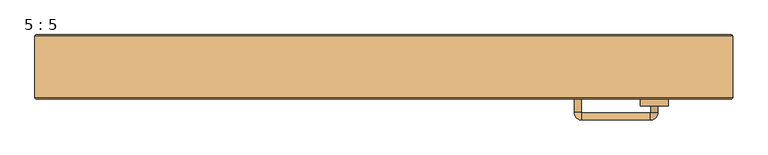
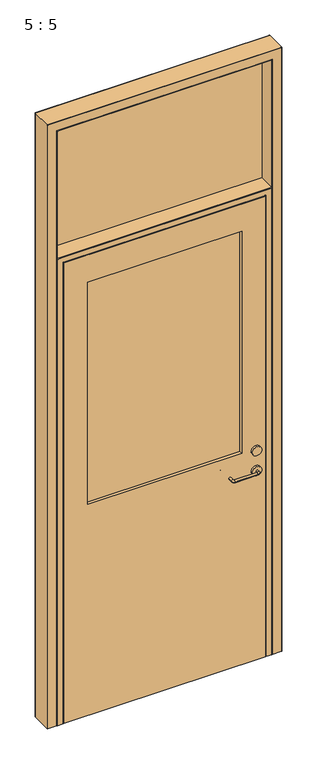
"""IFC4 building model written with IfcOpenShell, lengths in millimetres: door geometry, 5 : 5."""

from ifc_helpers import new_model, si_unit, point, frame, frame_2d, origin, place, context, project, spatial, polyline, circle_curve, ellipse_curve, trimmed, segment, composite_curve, outline, extrude, source, transform, mapped, element, save
from ifc_brep_helpers import plane_surface, cylinder_surface, revolved_surface, advanced_brep


def door_5_5_48de552c(model_context):
    return source(origin(), model_context, "Body", "SolidModel", [
        advanced_brep(
        [(392.9183216, 0.0, 855.0000042), (382.9183216, 0.0, 855.0000042), (382.9183216, -19.0, 855.0000042), (392.9183216, -19.0, 855.0000042), (381.9183216, -30.0, 855.0000042), (381.9183216, -20.0, 855.0000042), (283.9853306, -20.0, 855.0000042), (283.9853306, -30.0, 855.0000042), (272.9853306, -19.0, 855.0000042), (282.9853306, -19.0, 855.0000042), (282.9853306, 0.0, 855.0000042), (272.9853306, 0.0, 855.0000042), (282.9853306, 59.0, 855.0000042), (272.9853306, 59.0, 855.0000042), (283.9853306, 70.0, 855.0000042), (283.9853306, 60.0, 855.0000042), (381.9183216, 60.0, 855.0000042), (381.9183216, 70.0, 855.0000042), (392.9183216, 59.0, 855.0000042), (382.9183216, 59.0, 855.0000042)],
        [
            (0, 1, circle_curve(frame((387.9183216, 0.0, 855.0000042), z_axis=(0.0, -1.0, 0.0), x_axis=(1.0, 0.0, 0.0)), 5.0)),
            (1, 2),
            (2, 3, circle_curve(frame((387.9183216, -19.0, 855.0000042), z_axis=(0.0, 1.0, 0.0), x_axis=(1.0, 0.0, 0.0)), 5.0)),
            (3, 0),
            (1, 0, circle_curve(frame((387.9183216, 0.0, 855.0000042), z_axis=(0.0, -1.0, 0.0), x_axis=(1.0, 0.0, 0.0)), 5.0)),
            (3, 2, circle_curve(frame((387.9183216, -19.0, 855.0000042), z_axis=(0.0, 1.0, 0.0), x_axis=(1.0, 0.0, 0.0)), 5.0)),
            (4, 3, circle_curve(frame((381.9183216, -19.0, 855.0000042), z_axis=(0.0, 0.0, 1.0), x_axis=(1.0, 0.0, 0.0)), 11.0)),
            (2, 5, circle_curve(frame((381.9183216, -19.0, 855.0000042), z_axis=(0.0, 0.0, -1.0), x_axis=(1.0, 0.0, 0.0)), 1.0)),
            (5, 4, circle_curve(frame((381.9183216, -25.0, 855.0000042), z_axis=(1.0, 0.0, 0.0), x_axis=(0.0, -1.0, 0.0)), 5.0)),
            (4, 5, circle_curve(frame((381.9183216, -25.0, 855.0000042), z_axis=(1.0, 0.0, 0.0), x_axis=(0.0, -1.0, 0.0)), 5.0)),
            (5, 6),
            (6, 7, circle_curve(frame((283.9853306, -25.0, 855.0000042), z_axis=(1.0, 0.0, 0.0), x_axis=(0.0, -1.0, 0.0)), 5.0)),
            (7, 4),
            (7, 6, circle_curve(frame((283.9853306, -25.0, 855.0000042), z_axis=(1.0, 0.0, 0.0), x_axis=(0.0, -1.0, 0.0)), 5.0)),
            (8, 7, circle_curve(frame((283.9853306, -19.0, 855.0000042), z_axis=(0.0, 0.0, 1.0), x_axis=(0.0, -1.0, 0.0)), 11.0)),
            (6, 9, circle_curve(frame((283.9853306, -19.0, 855.0000042), z_axis=(0.0, 0.0, -1.0), x_axis=(0.0, -1.0, 0.0)), 1.0)),
            (9, 8, circle_curve(frame((277.9853306, -19.0, 855.0000042), z_axis=(0.0, -1.0, 0.0), x_axis=(-1.0, 0.0, 0.0)), 5.0)),
            (8, 9, circle_curve(frame((277.9853306, -19.0, 855.0000042), z_axis=(0.0, -1.0, 0.0), x_axis=(-1.0, 0.0, 0.0)), 5.0)),
            (9, 10),
            (10, 11, circle_curve(frame((277.9853306, 0.0, 855.0000042), z_axis=(0.0, -1.0, 0.0), x_axis=(-1.0, 0.0, 0.0)), 5.0)),
            (11, 8),
            (11, 10, circle_curve(frame((277.9853306, 0.0, 855.0000042), z_axis=(0.0, -1.0, 0.0), x_axis=(-1.0, 0.0, 0.0)), 5.0)),
            (10, 12),
            (12, 13, circle_curve(frame((277.9853306, 59.0, 855.0000042), z_axis=(0.0, -1.0, 0.0), x_axis=(-1.0, 0.0, 0.0)), 5.0)),
            (13, 11),
            (13, 12, circle_curve(frame((277.9853306, 59.0, 855.0000042), z_axis=(0.0, -1.0, 0.0), x_axis=(-1.0, 0.0, 0.0)), 5.0)),
            (14, 13, circle_curve(frame((283.9853306, 59.0, 855.0000042), z_axis=(0.0, 0.0, 1.0), x_axis=(-1.0, 0.0, 0.0)), 11.0)),
            (12, 15, circle_curve(frame((283.9853306, 59.0, 855.0000042), z_axis=(0.0, 0.0, -1.0), x_axis=(-1.0, 0.0, 0.0)), 1.0)),
            (15, 14, circle_curve(frame((283.9853306, 65.0, 855.0000042), z_axis=(-1.0, 0.0, 0.0), x_axis=(0.0, 1.0, 0.0)), 5.0)),
            (14, 15, circle_curve(frame((283.9853306, 65.0, 855.0000042), z_axis=(-1.0, 0.0, 0.0), x_axis=(0.0, 1.0, 0.0)), 5.0)),
            (15, 16),
            (16, 17, circle_curve(frame((381.9183216, 65.0, 855.0000042), z_axis=(-1.0, 0.0, 0.0), x_axis=(0.0, 1.0, 0.0)), 5.0)),
            (17, 14),
            (17, 16, circle_curve(frame((381.9183216, 65.0, 855.0000042), z_axis=(-1.0, 0.0, 0.0), x_axis=(0.0, 1.0, 0.0)), 5.0)),
            (18, 17, circle_curve(frame((381.9183216, 59.0, 855.0000042), z_axis=(0.0, 0.0, 1.0), x_axis=(0.0, 1.0, 0.0)), 11.0)),
            (16, 19, circle_curve(frame((381.9183216, 59.0, 855.0000042), z_axis=(0.0, 0.0, -1.0), x_axis=(0.0, 1.0, 0.0)), 1.0)),
            (19, 18, circle_curve(frame((387.9183216, 59.0, 855.0000042), z_axis=(0.0, 1.0, 0.0), x_axis=(1.0, 0.0, 0.0)), 5.0)),
            (18, 19, circle_curve(frame((387.9183216, 59.0, 855.0000042), z_axis=(0.0, 1.0, 0.0), x_axis=(1.0, 0.0, 0.0)), 5.0)),
            (19, 1),
            (0, 18),
        ],
        [
            cylinder_surface(frame((387.9183216, 0.0, 855.0000042), z_axis=(0.0, 1.0, 0.0), x_axis=(1.0, 0.0, 0.0)), 5.0),
            revolved_surface(trimmed(ellipse_curve(frame((387.9183216, -19.0, 855.0000042), z_axis=(0.0, 1.0, 0.0), x_axis=(1.0, 0.0, 0.0)), 5.0, 5.0), [point((382.9183216, -19.0, 855.0000042))], [point((392.9183216, -19.0, 855.0000042))], True, "CARTESIAN"), (381.9183216, -19.0, 0.0), (0.0, 0.0, -1.0)),
            revolved_surface(trimmed(ellipse_curve(frame((387.9183216, -19.0, 855.0000042), z_axis=(0.0, 1.0, 0.0), x_axis=(1.0, 0.0, 0.0)), 5.0, 5.0), [point((392.9183216, -19.0, 855.0000042))], [point((382.9183216, -19.0, 855.0000042))], True, "CARTESIAN"), (381.9183216, -19.0, 0.0), (0.0, 0.0, -1.0)),
            cylinder_surface(frame((381.9183216, -25.0, 855.0000042), z_axis=(1.0, 0.0, 0.0), x_axis=(0.0, -1.0, 0.0)), 5.0),
            revolved_surface(trimmed(ellipse_curve(frame((283.9853306, -25.0, 855.0000042), z_axis=(1.0, 0.0, 0.0), x_axis=(0.0, -1.0, 0.0)), 5.0, 5.0), [point((283.9853306, -20.0, 855.0000042))], [point((283.9853306, -30.0, 855.0000042))], True, "CARTESIAN"), (283.9853306, -19.0, 0.0), (0.0, 0.0, -1.0)),
            revolved_surface(trimmed(ellipse_curve(frame((283.9853306, -25.0, 855.0000042), z_axis=(1.0, 0.0, 0.0), x_axis=(0.0, -1.0, 0.0)), 5.0, 5.0), [point((283.9853306, -30.0, 855.0000042))], [point((283.9853306, -20.0, 855.0000042))], True, "CARTESIAN"), (283.9853306, -19.0, 0.0), (0.0, 0.0, -1.0)),
            cylinder_surface(frame((277.9853306, -19.0, 855.0000042), z_axis=(0.0, -1.0, 0.0), x_axis=(-1.0, 0.0, 0.0)), 5.0),
            cylinder_surface(frame((277.9853306, 0.0, 855.0000042), z_axis=(0.0, -1.0, 0.0), x_axis=(-1.0, 0.0, 0.0)), 5.0),
            revolved_surface(trimmed(ellipse_curve(frame((277.9853306, 59.0, 855.0000042), z_axis=(0.0, -1.0, 0.0), x_axis=(-1.0, 0.0, 0.0)), 5.0, 5.0), [point((282.9853306, 59.0, 855.0000042))], [point((272.9853306, 59.0, 855.0000042))], True, "CARTESIAN"), (283.9853306, 59.0, 0.0), (0.0, 0.0, -1.0)),
            revolved_surface(trimmed(ellipse_curve(frame((277.9853306, 59.0, 855.0000042), z_axis=(0.0, -1.0, 0.0), x_axis=(-1.0, 0.0, 0.0)), 5.0, 5.0), [point((272.9853306, 59.0, 855.0000042))], [point((282.9853306, 59.0, 855.0000042))], True, "CARTESIAN"), (283.9853306, 59.0, 0.0), (0.0, 0.0, -1.0)),
            cylinder_surface(frame((283.9853306, 65.0, 855.0000042), z_axis=(-1.0, 0.0, 0.0), x_axis=(0.0, 1.0, 0.0)), 5.0),
            revolved_surface(trimmed(ellipse_curve(frame((381.9183216, 65.0, 855.0000042), z_axis=(-1.0, 0.0, 0.0), x_axis=(0.0, 1.0, 0.0)), 5.0, 5.0), [point((381.9183216, 60.0, 855.0000042))], [point((381.9183216, 70.0, 855.0000042))], True, "CARTESIAN"), (381.9183216, 59.0, 0.0), (0.0, 0.0, -1.0)),
            revolved_surface(trimmed(ellipse_curve(frame((381.9183216, 65.0, 855.0000042), z_axis=(-1.0, 0.0, 0.0), x_axis=(0.0, 1.0, 0.0)), 5.0, 5.0), [point((381.9183216, 70.0, 855.0000042))], [point((381.9183216, 60.0, 855.0000042))], True, "CARTESIAN"), (381.9183216, 59.0, 0.0), (0.0, 0.0, -1.0)),
            cylinder_surface(frame((387.9183216, 59.0, 855.0000042), z_axis=(0.0, 1.0, 0.0), x_axis=(1.0, 0.0, 0.0)), 5.0),
        ],
        [
            (0, [[1, 2, 3, 4]]),
            (0, [[5, -4, 6, -2]]),
            (1, [[7, -3, 8, 9]]),
            (2, [[-8, -6, -7, 10]]),
            (3, [[-9, 11, 12, 13]]),
            (3, [[-10, -13, 14, -11]]),
            (4, [[15, -12, 16, 17]]),
            (5, [[-16, -14, -15, 18]]),
            (6, [[-17, 19, 20, 21]]),
            (6, [[-18, -21, 22, -19]]),
            (7, [[-20, 23, 24, 25]]),
            (7, [[-22, -25, 26, -23]]),
            (8, [[27, -24, 28, 29]]),
            (9, [[-28, -26, -27, 30]]),
            (10, [[-29, 31, 32, 33]]),
            (10, [[-30, -33, 34, -31]]),
            (11, [[35, -32, 36, 37]]),
            (12, [[-36, -34, -35, 38]]),
            (13, [[-37, 39, -1, 40]]),
            (13, [[-38, -40, -5, -39]]),
        ],
    ),
        extrude(outline(polyline([(327.9573841, 14.0), (-328.0426159, 14.0), (-328.0426159, 26.0), (327.9573841, 26.0), (327.9573841, 14.0)])), frame((0.0, 0.0, 950.0), z_axis=(0.0, 0.0, 1.0), x_axis=(1.0, 0.0, 0.0)), (0.0, 0.0, 1.0), 1000.0),
        extrude(outline(polyline([(2072.0, 427.9573841), (2072.0, -428.0), (0.0, -428.0), (0.0, 427.9573841), (2072.0, 427.9573841)]), holes=[polyline([(1950.0, -328.0426159), (1950.0, 327.9573841), (950.0, 327.9573841), (950.0, -328.0426159), (1950.0, -328.0426159)])]), frame((0.0, 0.0, 0.0), z_axis=(0.0, 1.0, 0.0), x_axis=(0.0, 0.0, 1.0)), (0.0, 0.0, 1.0), 40.0),
        extrude(outline(polyline([(-458.0, 85.5), (458.0, 85.5), (458.0, 74.5), (-458.0, 74.5), (-458.0, 85.5)])), frame((0.0, 0.0, 2100.0), z_axis=(0.0, 0.0, 1.0), x_axis=(1.0, 0.0, 0.0)), (0.0, 0.0, 1.0), 574.0),
        advanced_brep(
        [(498.0, 0.0, 0.0), (460.0, 0.0, 0.0), (458.0, 2.0, 0.0), (458.0, 90.0, 0.0), (460.0, 92.0, 0.0), (498.0, 92.0, 0.0), (500.0, 90.0, 0.0), (500.0, 2.0, 0.0), (498.0, 0.0, 2714.0), (-498.0, 0.0, 2714.0), (-498.0, 0.0, 0.0), (-460.0, 0.0, 0.0), (-460.0, 0.0, 2676.0), (460.0, 0.0, 2676.0), (458.0, 2.0, 2674.0), (458.0, 90.0, 2674.0), (460.0, 92.0, 2676.0), (-460.0, 92.0, 2676.0), (-460.0, 92.0, 0.0), (-498.0, 92.0, 0.0), (-498.0, 92.0, 2714.0), (498.0, 92.0, 2714.0), (500.0, 90.0, 2716.0), (500.0, 2.0, 2716.0), (-458.0, 2.0, 2674.0), (-458.0, 90.0, 2674.0), (-500.0, 90.0, 2716.0), (-500.0, 2.0, 2716.0), (-500.0, 2.0, 0.0), (-500.0, 90.0, 0.0), (-458.0, 90.0, 0.0), (-458.0, 2.0, 0.0)],
        [
            (0, 1),
            (1, 2, circle_curve(frame((460.0, 2.0, 0.0), z_axis=(0.0, 0.0, -1.0), x_axis=(1.0, 0.0, 0.0)), 2.0)),
            (2, 3),
            (3, 4, circle_curve(frame((460.0, 90.0, 0.0), z_axis=(0.0, 0.0, -1.0), x_axis=(1.0, 0.0, 0.0)), 2.0)),
            (4, 5),
            (5, 6, circle_curve(frame((498.0, 90.0, 0.0), z_axis=(0.0, 0.0, -1.0), x_axis=(1.0, 0.0, 0.0)), 2.0)),
            (6, 7),
            (7, 0, circle_curve(frame((498.0, 2.0, 0.0), z_axis=(0.0, 0.0, -1.0), x_axis=(1.0, 0.0, 0.0)), 2.0)),
            (0, 8),
            (8, 9),
            (9, 10),
            (10, 11),
            (11, 12),
            (12, 13),
            (13, 1),
            (2, 14),
            (14, 15),
            (15, 3),
            (4, 16),
            (16, 17),
            (17, 18),
            (18, 19),
            (19, 20),
            (20, 21),
            (21, 5),
            (6, 22),
            (22, 23),
            (23, 7),
            (14, 24),
            (24, 25),
            (25, 15),
            (22, 26),
            (26, 27),
            (27, 23),
            (10, 28, circle_curve(frame((-498.0, 2.0, 0.0), z_axis=(0.0, 0.0, -1.0), x_axis=(-1.0, 0.0, 0.0)), 2.0)),
            (28, 29),
            (29, 19, circle_curve(frame((-498.0, 90.0, 0.0), z_axis=(0.0, 0.0, -1.0), x_axis=(-1.0, 0.0, 0.0)), 2.0)),
            (18, 30, circle_curve(frame((-460.0, 90.0, 0.0), z_axis=(0.0, 0.0, -1.0), x_axis=(-1.0, 0.0, 0.0)), 2.0)),
            (30, 31),
            (31, 11, circle_curve(frame((-460.0, 2.0, 0.0), z_axis=(0.0, 0.0, -1.0), x_axis=(-1.0, 0.0, 0.0)), 2.0)),
            (24, 31),
            (30, 25),
            (26, 29),
            (28, 27),
            (13, 14, ellipse_curve(frame((460.0, 2.0, 2676.0), z_axis=(0.7071067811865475, 0.0, -0.7071067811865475), x_axis=(-0.7071067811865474, 0.0, -0.7071067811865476)), 2.8284271, 2.0)),
            (15, 16, ellipse_curve(frame((460.0, 90.0, 2676.0), z_axis=(0.7071067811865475, 0.0, -0.7071067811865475), x_axis=(-0.7071067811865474, 0.0, -0.7071067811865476)), 2.8284271, 2.0)),
            (21, 22, ellipse_curve(frame((498.0, 90.0, 2714.0), z_axis=(0.7071067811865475, 0.0, -0.7071067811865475), x_axis=(-0.7071067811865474, 0.0, -0.7071067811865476)), 2.8284271, 2.0)),
            (23, 8, ellipse_curve(frame((498.0, 2.0, 2714.0), z_axis=(0.7071067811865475, 0.0, -0.7071067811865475), x_axis=(-0.7071067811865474, 0.0, -0.7071067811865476)), 2.8284271, 2.0)),
            (12, 24, ellipse_curve(frame((-460.0, 2.0, 2676.0), z_axis=(0.7071067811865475, 0.0, 0.7071067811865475), x_axis=(0.7071067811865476, 0.0, -0.7071067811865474)), 2.8284271, 2.0)),
            (25, 17, ellipse_curve(frame((-460.0, 90.0, 2676.0), z_axis=(0.7071067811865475, 0.0, 0.7071067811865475), x_axis=(0.7071067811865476, 0.0, -0.7071067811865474)), 2.8284271, 2.0)),
            (20, 26, ellipse_curve(frame((-498.0, 90.0, 2714.0), z_axis=(0.7071067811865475, 0.0, 0.7071067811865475), x_axis=(0.7071067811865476, 0.0, -0.7071067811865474)), 2.8284271, 2.0)),
            (27, 9, ellipse_curve(frame((-498.0, 2.0, 2714.0), z_axis=(0.7071067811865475, 0.0, 0.7071067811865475), x_axis=(0.7071067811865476, 0.0, -0.7071067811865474)), 2.8284271, 2.0)),
        ],
        [
            plane_surface(frame((500.0, 0.0, 0.0), z_axis=(0.0, 0.0, -1.0), x_axis=(0.0, 1.0, 0.0))),
            plane_surface(frame((498.0, 0.0, 0.0), z_axis=(0.0, -1.0, 0.0), x_axis=(0.0, 0.0, 1.0))),
            plane_surface(frame((458.0, 2.0, 0.0), z_axis=(-1.0, 0.0, 0.0), x_axis=(0.0, 0.0, 1.0))),
            plane_surface(frame((460.0, 92.0, 0.0), z_axis=(0.0, 1.0, 0.0), x_axis=(0.0, 0.0, 1.0))),
            plane_surface(frame((500.0, 90.0, 0.0), z_axis=(1.0, 0.0, 0.0), x_axis=(0.0, 0.0, 1.0))),
            plane_surface(frame((458.0, 2.0, 2674.0), z_axis=(0.0, 0.0, -1.0), x_axis=(-1.0, 0.0, 0.0))),
            plane_surface(frame((500.0, 90.0, 2716.0), z_axis=(0.0, 0.0, 1.0), x_axis=(-1.0, 0.0, 0.0))),
            plane_surface(frame((-500.0, 0.0, 0.0), z_axis=(0.0, 0.0, -1.0), x_axis=(0.0, 1.0, 0.0))),
            plane_surface(frame((-458.0, 2.0, 2674.0), z_axis=(1.0, 0.0, 0.0), x_axis=(0.0, 0.0, -1.0))),
            plane_surface(frame((-500.0, 90.0, 2716.0), z_axis=(-1.0, 0.0, 0.0), x_axis=(0.0, 0.0, -1.0))),
            cylinder_surface(frame((460.0, 2.0, 0.0), z_axis=(0.0, 0.0, -1.0), x_axis=(1.0, 0.0, 0.0)), 2.0),
            cylinder_surface(frame((460.0, 90.0, 0.0), z_axis=(0.0, 0.0, -1.0), x_axis=(1.0, 0.0, 0.0)), 2.0),
            cylinder_surface(frame((498.0, 90.0, 0.0), z_axis=(0.0, 0.0, -1.0), x_axis=(1.0, 0.0, 0.0)), 2.0),
            cylinder_surface(frame((498.0, 2.0, 0.0), z_axis=(0.0, 0.0, -1.0), x_axis=(1.0, 0.0, 0.0)), 2.0),
            cylinder_surface(frame((500.0, 2.0, 2676.0), z_axis=(1.0, 0.0, 0.0), x_axis=(0.0, 0.0, 1.0)), 2.0),
            cylinder_surface(frame((500.0, 90.0, 2676.0), z_axis=(1.0, 0.0, 0.0), x_axis=(0.0, 0.0, 1.0)), 2.0),
            cylinder_surface(frame((500.0, 90.0, 2714.0), z_axis=(1.0, 0.0, 0.0), x_axis=(0.0, 0.0, 1.0)), 2.0),
            cylinder_surface(frame((500.0, 2.0, 2714.0), z_axis=(1.0, 0.0, 0.0), x_axis=(0.0, 0.0, 1.0)), 2.0),
            cylinder_surface(frame((-460.0, 2.0, 2716.0), z_axis=(0.0, 0.0, 1.0), x_axis=(-1.0, 0.0, 0.0)), 2.0),
            cylinder_surface(frame((-460.0, 90.0, 2716.0), z_axis=(0.0, 0.0, 1.0), x_axis=(-1.0, 0.0, 0.0)), 2.0),
            cylinder_surface(frame((-498.0, 90.0, 2716.0), z_axis=(0.0, 0.0, 1.0), x_axis=(-1.0, 0.0, 0.0)), 2.0),
            cylinder_surface(frame((-498.0, 2.0, 2716.0), z_axis=(0.0, 0.0, 1.0), x_axis=(-1.0, 0.0, 0.0)), 2.0),
        ],
        [
            (0, [[1, 2, 3, 4, 5, 6, 7, 8]]),
            (1, [[-1, 9, 10, 11, 12, 13, 14, 15]]),
            (2, [[-3, 16, 17, 18]]),
            (3, [[-5, 19, 20, 21, 22, 23, 24, 25]]),
            (4, [[-7, 26, 27, 28]]),
            (5, [[-17, 29, 30, 31]]),
            (6, [[-27, 32, 33, 34]]),
            (7, [[35, 36, 37, -22, 38, 39, 40, -12]]),
            (8, [[-30, 41, -39, 42]]),
            (9, [[-33, 43, -36, 44]]),
            (10, [[-2, -15, 45, -16]]),
            (11, [[-4, -18, 46, -19]]),
            (12, [[-6, -25, 47, -26]]),
            (13, [[-8, -28, 48, -9]]),
            (14, [[-45, -14, 49, -29]]),
            (15, [[-46, -31, 50, -20]]),
            (16, [[-47, -24, 51, -32]]),
            (17, [[-48, -34, 52, -10]]),
            (18, [[-49, -13, -40, -41]]),
            (19, [[-50, -42, -38, -21]]),
            (20, [[-51, -23, -37, -43]]),
            (21, [[-52, -44, -35, -11]]),
        ],
    ),
        advanced_brep(
        [(-456.0, 92.0, 0.0), (-433.0, 92.0, 0.0), (-431.0, 90.0, 0.0), (-431.0, 87.0, 0.0), (-421.0361518, 87.0, 0.0), (-419.0361518, 85.0, 0.0), (-419.0, 45.0, 0.0), (-421.0361518, 43.0, 0.0), (-431.0, 43.0, 0.0), (-431.0, 2.0, 0.0), (-433.0, 0.0, 0.0), (-456.0, 0.0, 0.0), (-458.0, 2.0, 0.0), (-458.0, 90.0, 0.0), (-456.0, 92.0, 2098.0), (456.0, 92.0, 2098.0), (456.0, 92.0, 0.0), (433.0, 92.0, 0.0), (433.0, 92.0, 2075.0), (-433.0, 92.0, 2075.0), (-431.0, 90.0, 2073.0), (-431.0, 87.0, 2073.0), (431.0, 87.0, 2073.0), (431.0, 87.0, 0.0), (421.0361518, 87.0, 0.0), (421.0361518, 87.0, 2063.0361518), (-421.0361518, 87.0, 2063.0361518), (-419.0361518, 85.0, 2061.0361518), (-419.0, 45.0, 2061.0), (-421.0361518, 43.0, 2063.0361518), (421.0361518, 43.0, 2063.0361518), (421.0361518, 43.0, 0.0), (431.0, 43.0, 0.0), (431.0, 43.0, 2073.0), (-431.0, 43.0, 2073.0), (-431.0, 2.0, 2073.0), (-433.0, 0.0, 2075.0), (433.0, 0.0, 2075.0), (433.0, 0.0, 0.0), (456.0, 0.0, 0.0), (456.0, 0.0, 2098.0), (-456.0, 0.0, 2098.0), (-458.0, 2.0, 2100.0), (-458.0, 90.0, 2100.0), (431.0, 90.0, 2073.0), (419.0361518, 85.0, 2061.0361518), (419.0, 45.0, 2061.0), (431.0, 2.0, 2073.0), (458.0, 2.0, 2100.0), (458.0, 90.0, 2100.0), (458.0, 90.0, 0.0), (458.0, 2.0, 0.0), (431.0, 2.0, 0.0), (419.0361518, 45.0, 0.0), (419.0, 85.0, 0.0), (431.0, 90.0, 0.0)],
        [
            (0, 1),
            (1, 2, circle_curve(frame((-433.0, 90.0, 0.0), z_axis=(0.0, 0.0, -1.0), x_axis=(0.0, 1.0, 0.0)), 2.0)),
            (2, 3),
            (3, 4),
            (4, 5, circle_curve(frame((-421.0361518, 85.0, 0.0), z_axis=(0.0, 0.0, -1.0), x_axis=(0.0, 1.0, 0.0)), 2.0)),
            (5, 6),
            (6, 7, circle_curve(frame((-421.0361518, 45.0, 0.0), z_axis=(0.0, 0.0, -1.0), x_axis=(0.0, 1.0, 0.0)), 2.0)),
            (7, 8),
            (8, 9),
            (9, 10, circle_curve(frame((-433.0, 2.0, 0.0), z_axis=(0.0, 0.0, -1.0), x_axis=(0.0, 1.0, 0.0)), 2.0)),
            (10, 11),
            (11, 12, circle_curve(frame((-456.0, 2.0, 0.0), z_axis=(0.0, 0.0, -1.0), x_axis=(0.0, 1.0, 0.0)), 2.0)),
            (12, 13),
            (13, 0, circle_curve(frame((-456.0, 90.0, 0.0), z_axis=(0.0, 0.0, -1.0), x_axis=(0.0, 1.0, 0.0)), 2.0)),
            (0, 14),
            (14, 15),
            (15, 16),
            (16, 17),
            (17, 18),
            (18, 19),
            (19, 1),
            (19, 20, ellipse_curve(frame((-433.0, 90.0, 2075.0), z_axis=(-0.7071067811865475, 0.0, -0.7071067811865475), x_axis=(0.7071067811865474, 0.0, -0.7071067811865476)), 2.8284271, 2.0)),
            (20, 2),
            (20, 21),
            (21, 3),
            (21, 22),
            (22, 23),
            (23, 24),
            (24, 25),
            (25, 26),
            (26, 4),
            (26, 27, ellipse_curve(frame((-421.0361518, 85.0, 2063.0361518), z_axis=(-0.7071067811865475, 0.0, -0.7071067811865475), x_axis=(0.7071067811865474, 0.0, -0.7071067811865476)), 2.8284271, 2.0)),
            (27, 5),
            (27, 28),
            (28, 6),
            (28, 29, ellipse_curve(frame((-421.0361518, 45.0, 2063.0361518), z_axis=(-0.7071067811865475, 0.0, -0.7071067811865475), x_axis=(0.7071067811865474, 0.0, -0.7071067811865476)), 2.8284271, 2.0)),
            (29, 7),
            (29, 30),
            (30, 31),
            (31, 32),
            (32, 33),
            (33, 34),
            (34, 8),
            (34, 35),
            (35, 9),
            (35, 36, ellipse_curve(frame((-433.0, 2.0, 2075.0), z_axis=(-0.7071067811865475, 0.0, -0.7071067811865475), x_axis=(0.7071067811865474, 0.0, -0.7071067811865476)), 2.8284271, 2.0)),
            (36, 10),
            (36, 37),
            (37, 38),
            (38, 39),
            (39, 40),
            (40, 41),
            (41, 11),
            (41, 42, ellipse_curve(frame((-456.0, 2.0, 2098.0), z_axis=(-0.7071067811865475, 0.0, -0.7071067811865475), x_axis=(0.7071067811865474, 0.0, -0.7071067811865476)), 2.8284271, 2.0)),
            (42, 12),
            (42, 43),
            (43, 13),
            (43, 14, ellipse_curve(frame((-456.0, 90.0, 2098.0), z_axis=(-0.7071067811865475, 0.0, -0.7071067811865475), x_axis=(0.7071067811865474, 0.0, -0.7071067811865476)), 2.8284271, 2.0)),
            (18, 44, ellipse_curve(frame((433.0, 90.0, 2075.0), z_axis=(-0.7071067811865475, 0.0, 0.7071067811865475), x_axis=(-0.7071067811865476, 0.0, -0.7071067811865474)), 2.8284271, 2.0)),
            (44, 20),
            (44, 22),
            (25, 45, ellipse_curve(frame((421.0361518, 85.0, 2063.0361518), z_axis=(-0.7071067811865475, 0.0, 0.7071067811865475), x_axis=(-0.7071067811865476, 0.0, -0.7071067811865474)), 2.8284271, 2.0)),
            (45, 27),
            (45, 46),
            (46, 28),
            (46, 30, ellipse_curve(frame((421.0361518, 45.0, 2063.0361518), z_axis=(-0.7071067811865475, 0.0, 0.7071067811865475), x_axis=(-0.7071067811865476, 0.0, -0.7071067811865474)), 2.8284271, 2.0)),
            (33, 47),
            (47, 35),
            (47, 37, ellipse_curve(frame((433.0, 2.0, 2075.0), z_axis=(-0.7071067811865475, 0.0, 0.7071067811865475), x_axis=(-0.7071067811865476, 0.0, -0.7071067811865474)), 2.8284271, 2.0)),
            (40, 48, ellipse_curve(frame((456.0, 2.0, 2098.0), z_axis=(-0.7071067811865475, 0.0, 0.7071067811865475), x_axis=(-0.7071067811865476, 0.0, -0.7071067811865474)), 2.8284271, 2.0)),
            (48, 42),
            (48, 49),
            (49, 43),
            (49, 15, ellipse_curve(frame((456.0, 90.0, 2098.0), z_axis=(-0.7071067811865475, 0.0, 0.7071067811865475), x_axis=(-0.7071067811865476, 0.0, -0.7071067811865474)), 2.8284271, 2.0)),
            (16, 50, circle_curve(frame((456.0, 90.0, 0.0), z_axis=(0.0, 0.0, -1.0), x_axis=(0.0, 1.0, 0.0)), 2.0)),
            (50, 51),
            (51, 39, circle_curve(frame((456.0, 2.0, 0.0), z_axis=(0.0, 0.0, -1.0), x_axis=(0.0, 1.0, 0.0)), 2.0)),
            (38, 52, circle_curve(frame((433.0, 2.0, 0.0), z_axis=(0.0, 0.0, -1.0), x_axis=(0.0, 1.0, 0.0)), 2.0)),
            (52, 32),
            (31, 53, circle_curve(frame((421.0361518, 45.0, 0.0), z_axis=(0.0, 0.0, -1.0), x_axis=(0.0, 1.0, 0.0)), 2.0)),
            (53, 54),
            (54, 24, circle_curve(frame((421.0361518, 85.0, 0.0), z_axis=(0.0, 0.0, -1.0), x_axis=(0.0, 1.0, 0.0)), 2.0)),
            (23, 55),
            (55, 17, circle_curve(frame((433.0, 90.0, 0.0), z_axis=(0.0, 0.0, -1.0), x_axis=(0.0, 1.0, 0.0)), 2.0)),
            (55, 44),
            (54, 45),
            (53, 46),
            (52, 47),
            (51, 48),
            (50, 49),
        ],
        [
            plane_surface(frame((-458.0, 0.0, 0.0), z_axis=(0.0, 0.0, -1.0), x_axis=(0.0, 1.0, 0.0))),
            plane_surface(frame((-456.0, 92.0, 0.0), z_axis=(0.0, 1.0, 0.0), x_axis=(0.0, 0.0, 1.0))),
            cylinder_surface(frame((-433.0, 90.0, 0.0), z_axis=(0.0, 0.0, -1.0), x_axis=(0.0, 1.0, 0.0)), 2.0),
            plane_surface(frame((-431.0, 90.0, 0.0), z_axis=(1.0, 0.0, 0.0), x_axis=(0.0, 0.0, 1.0))),
            plane_surface(frame((-431.0, 87.0, 0.0), z_axis=(0.0, 1.0, 0.0), x_axis=(0.0, 0.0, 1.0))),
            cylinder_surface(frame((-421.0361518, 85.0, 0.0), z_axis=(0.0, 0.0, -1.0), x_axis=(0.0, 1.0, 0.0)), 2.0),
            plane_surface(frame((-419.0, 85.0, 0.0), z_axis=(1.0, 0.0, 0.0), x_axis=(0.0, 0.0, 1.0))),
            cylinder_surface(frame((-421.0361518, 45.0, 0.0), z_axis=(0.0, 0.0, -1.0), x_axis=(0.0, 1.0, 0.0)), 2.0),
            plane_surface(frame((-421.0361518, 43.0, 0.0), z_axis=(0.0, -1.0, 0.0), x_axis=(0.0, 0.0, 1.0))),
            plane_surface(frame((-431.0, 43.0, 0.0), z_axis=(1.0, 0.0, 0.0), x_axis=(0.0, 0.0, 1.0))),
            cylinder_surface(frame((-433.0, 2.0, 0.0), z_axis=(0.0, 0.0, -1.0), x_axis=(0.0, 1.0, 0.0)), 2.0),
            plane_surface(frame((-433.0, 0.0, 0.0), z_axis=(0.0, -1.0, 0.0), x_axis=(0.0, 0.0, 1.0))),
            cylinder_surface(frame((-456.0, 2.0, 0.0), z_axis=(0.0, 0.0, -1.0), x_axis=(0.0, 1.0, 0.0)), 2.0),
            plane_surface(frame((-458.0, 2.0, 0.0), z_axis=(-1.0, 0.0, 0.0), x_axis=(0.0, 0.0, 1.0))),
            cylinder_surface(frame((-456.0, 90.0, 0.0), z_axis=(0.0, 0.0, -1.0), x_axis=(0.0, 1.0, 0.0)), 2.0),
            cylinder_surface(frame((-458.0, 90.0, 2075.0), z_axis=(-1.0, 0.0, 0.0), x_axis=(0.0, 1.0, 0.0)), 2.0),
            plane_surface(frame((-431.0, 90.0, 2073.0), z_axis=(0.0, 0.0, -1.0), x_axis=(1.0, 0.0, 0.0))),
            cylinder_surface(frame((-458.0, 85.0, 2063.0361518), z_axis=(-1.0, 0.0, 0.0), x_axis=(0.0, 1.0, 0.0)), 2.0),
            plane_surface(frame((-419.0, 85.0, 2061.0), z_axis=(0.0, 0.0, -1.0), x_axis=(1.0, 0.0, 0.0))),
            cylinder_surface(frame((-458.0, 45.0, 2063.0361518), z_axis=(-1.0, 0.0, 0.0), x_axis=(0.0, 1.0, 0.0)), 2.0),
            plane_surface(frame((-431.0, 43.0, 2073.0), z_axis=(0.0, 0.0, -1.0), x_axis=(1.0, 0.0, 0.0))),
            cylinder_surface(frame((-458.0, 2.0, 2075.0), z_axis=(-1.0, 0.0, 0.0), x_axis=(0.0, 1.0, 0.0)), 2.0),
            cylinder_surface(frame((-458.0, 2.0, 2098.0), z_axis=(-1.0, 0.0, 0.0), x_axis=(0.0, 1.0, 0.0)), 2.0),
            plane_surface(frame((-458.0, 2.0, 2100.0), z_axis=(0.0, 0.0, 1.0), x_axis=(1.0, 0.0, 0.0))),
            cylinder_surface(frame((-458.0, 90.0, 2098.0), z_axis=(-1.0, 0.0, 0.0), x_axis=(0.0, 1.0, 0.0)), 2.0),
            plane_surface(frame((458.0, 0.0, 0.0), z_axis=(0.0, 0.0, -1.0), x_axis=(0.0, 1.0, 0.0))),
            cylinder_surface(frame((433.0, 90.0, 2100.0), z_axis=(0.0, 0.0, 1.0), x_axis=(0.0, 1.0, 0.0)), 2.0),
            plane_surface(frame((431.0, 90.0, 2073.0), z_axis=(-1.0, 0.0, 0.0), x_axis=(0.0, 0.0, -1.0))),
            cylinder_surface(frame((421.0361518, 85.0, 2100.0), z_axis=(0.0, 0.0, 1.0), x_axis=(0.0, 1.0, 0.0)), 2.0),
            plane_surface(frame((419.0, 85.0, 2061.0), z_axis=(-1.0, 0.0, 0.0), x_axis=(0.0, 0.0, -1.0))),
            cylinder_surface(frame((421.0361518, 45.0, 2100.0), z_axis=(0.0, 0.0, 1.0), x_axis=(0.0, 1.0, 0.0)), 2.0),
            plane_surface(frame((431.0, 43.0, 2073.0), z_axis=(-1.0, 0.0, 0.0), x_axis=(0.0, 0.0, -1.0))),
            cylinder_surface(frame((433.0, 2.0, 2100.0), z_axis=(0.0, 0.0, 1.0), x_axis=(0.0, 1.0, 0.0)), 2.0),
            cylinder_surface(frame((456.0, 2.0, 2100.0), z_axis=(0.0, 0.0, 1.0), x_axis=(0.0, 1.0, 0.0)), 2.0),
            plane_surface(frame((458.0, 2.0, 2100.0), z_axis=(1.0, 0.0, 0.0), x_axis=(0.0, 0.0, -1.0))),
            cylinder_surface(frame((456.0, 90.0, 2100.0), z_axis=(0.0, 0.0, 1.0), x_axis=(0.0, 1.0, 0.0)), 2.0),
        ],
        [
            (0, [[1, 2, 3, 4, 5, 6, 7, 8, 9, 10, 11, 12, 13, 14]]),
            (1, [[-1, 15, 16, 17, 18, 19, 20, 21]]),
            (2, [[-2, -21, 22, 23]]),
            (3, [[-3, -23, 24, 25]]),
            (4, [[-4, -25, 26, 27, 28, 29, 30, 31]]),
            (5, [[-5, -31, 32, 33]]),
            (6, [[-6, -33, 34, 35]]),
            (7, [[-7, -35, 36, 37]]),
            (8, [[-8, -37, 38, 39, 40, 41, 42, 43]]),
            (9, [[-9, -43, 44, 45]]),
            (10, [[-10, -45, 46, 47]]),
            (11, [[-11, -47, 48, 49, 50, 51, 52, 53]]),
            (12, [[-12, -53, 54, 55]]),
            (13, [[-13, -55, 56, 57]]),
            (14, [[-14, -57, 58, -15]]),
            (15, [[-22, -20, 59, 60]]),
            (16, [[-24, -60, 61, -26]]),
            (17, [[-32, -30, 62, 63]]),
            (18, [[-34, -63, 64, 65]]),
            (19, [[-36, -65, 66, -38]]),
            (20, [[-44, -42, 67, 68]]),
            (21, [[-46, -68, 69, -48]]),
            (22, [[-54, -52, 70, 71]]),
            (23, [[-56, -71, 72, 73]]),
            (24, [[-58, -73, 74, -16]]),
            (25, [[75, 76, 77, -50, 78, 79, -40, 80, 81, 82, -28, 83, 84, -18]]),
            (26, [[-59, -19, -84, 85]]),
            (27, [[-61, -85, -83, -27]]),
            (28, [[-62, -29, -82, 86]]),
            (29, [[-64, -86, -81, 87]]),
            (30, [[-66, -87, -80, -39]]),
            (31, [[-67, -41, -79, 88]]),
            (32, [[-69, -88, -78, -49]]),
            (33, [[-70, -51, -77, 89]]),
            (34, [[-72, -89, -76, 90]]),
            (35, [[-74, -90, -75, -17]]),
        ],
    ),
        extrude(outline(composite_curve([segment(trimmed(circle_curve(frame_2d((944.9999958, 387.9573841)), 20.0), [point((944.9999958, 407.9573841))], [point((944.9999958, 367.9573841))], False, "CARTESIAN"), True, "CONTINUOUS"), segment(trimmed(circle_curve(frame_2d((944.9999958, 387.9573841)), 20.0), [point((944.9999958, 367.9573841))], [point((944.9999958, 407.9573841))], False, "CARTESIAN"), True, "CONTINUOUS")], self_intersect=False)), frame((0.0, -10.0, 0.0), z_axis=(0.0, 1.0, 0.0), x_axis=(0.0, 0.0, 1.0)), (0.0, 0.0, 1.0), 60.0),
        extrude(outline(composite_curve([segment(trimmed(circle_curve(frame_2d((855.0000042, 387.9183216)), 20.0), [point((855.0000042, 407.9183216))], [point((855.0000042, 367.9183216))], False, "CARTESIAN"), True, "CONTINUOUS"), segment(trimmed(circle_curve(frame_2d((855.0000042, 387.9183216)), 20.0), [point((855.0000042, 367.9183216))], [point((855.0000042, 407.9183216))], False, "CARTESIAN"), True, "CONTINUOUS")], self_intersect=False)), frame((0.0, -10.0, 0.0), z_axis=(0.0, 1.0, 0.0), x_axis=(0.0, 0.0, 1.0)), (0.0, 0.0, 1.0), 60.0),
    ])


if __name__ == "__main__":
    model = new_model("IFC4")
    model_context = context("Model", 3, world=origin())
    ifc_project = project(units=[si_unit("LENGTHUNIT", "METRE", prefix="MILLI")], contexts=[model_context])
    site = spatial("IfcSite", under=ifc_project)
    building = spatial("IfcBuilding", under=site)
    placement = place(None, origin())
    door_5_5_shape = door_5_5_48de552c(model_context)
    element("IfcDoor", 1, ObjectType="5 : 5", at=placement, inside=building, context=model_context, shape_type="MappedRepresentation", body=[
        mapped(door_5_5_shape, transform((0.0, 0.0, 0.0), x_axis=(1.0, 0.0, 0.0), y_axis=(0.0, 1.0, 0.0), z_axis=(0.0, 0.0, 1.0))),
    ])
    save(model, "model.ifc")
